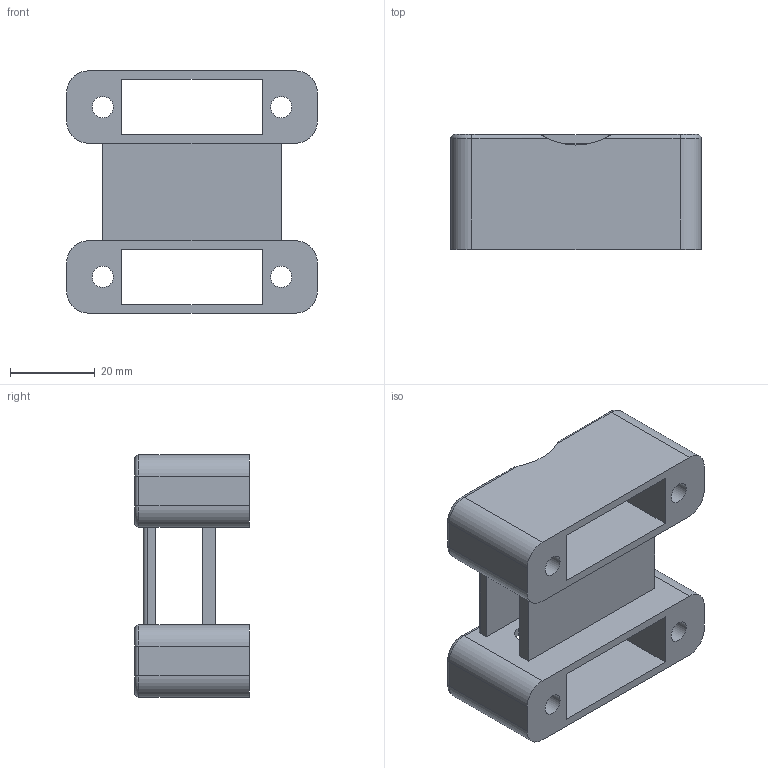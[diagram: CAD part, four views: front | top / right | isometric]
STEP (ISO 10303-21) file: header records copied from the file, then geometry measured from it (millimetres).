
FILE_DESCRIPTION(/* description */ (''),/* implementation_level */ '2;1');
FILE_NAME(/* name */ 'Bearing_mount.step',/* time_stamp */ '2025-06-07T13:34:53-07:00',/* author */ (''),/* organization */ (''),/* preprocessor_version */ 'ST-DEVELOPER v20.1',/* originating_system */ 'Autodesk Translation Framework v14.10.0.0',/* authorisation */ '');
FILE_SCHEMA (('AUTOMOTIVE_DESIGN { 1 0 10303 214 3 1 1 }'));
Length unit declared in the file: millimetre
Products named in the file (1): Bearing_mount
Bounding box: 59 x 27 x 57 mm (x, y, z)
Volume: 31378.9 mm3; surface area: 19434.5 mm2
Topology: 1 solids, 1 shells, 96 faces, 272 edges, 176 vertices
Faces by surface type: plane 46, cylinder 42, torus 8
Full cylindrical faces by diameter (mm): 5 x4
Entity records: 3225 total; most frequent: CARTESIAN_POINT 585, DIRECTION 558, ORIENTED_EDGE 544, EDGE_CURVE 272, AXIS2_PLACEMENT_3D 193, VERTEX_POINT 176, LINE 172, VECTOR 172
